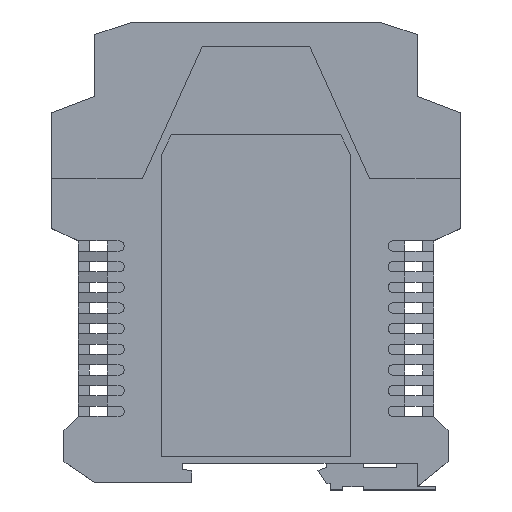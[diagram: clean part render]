
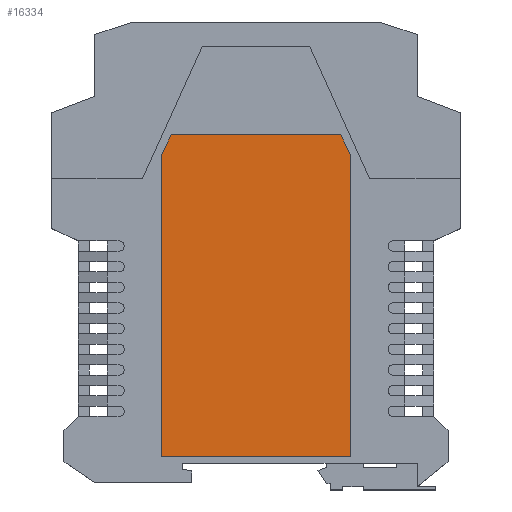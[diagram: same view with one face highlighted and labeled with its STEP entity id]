
A CAD part, top view. The second image highlights one B-rep face of the part: STEP entity #16334.
In plain terms, the highlighted planar face has unit normal (0, 0, 1).
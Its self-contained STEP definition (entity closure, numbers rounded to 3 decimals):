
#110 = LINE ( 'NONE', #16987, #18205 ) ;
#346 = PLANE ( 'NONE',  #9746 ) ;
#735 = DIRECTION ( 'NONE',  ( 0., 1., 0. ) ) ;
#1245 = CARTESIAN_POINT ( 'NONE',  ( 267.081, 339.152, 12.3 ) ) ;
#1602 = EDGE_CURVE ( 'NONE', #4344, #9755, #110, .T. ) ;
#1675 = EDGE_CURVE ( 'NONE', #9755, #7152, #17368, .T. ) ;
#1778 = VERTEX_POINT ( 'NONE', #21467 ) ;
#2019 = VECTOR ( 'NONE', #9514, 1000. ) ;
#2707 = CARTESIAN_POINT ( 'NONE',  ( 310.581, 334.152, 12.3 ) ) ;
#2941 = DIRECTION ( 'NONE',  ( 1., 0., 0. ) ) ;
#3109 = CARTESIAN_POINT ( 'NONE',  ( 264.581, 334.152, 12.3 ) ) ;
#3389 = EDGE_CURVE ( 'NONE', #1778, #9187, #8338, .T. ) ;
#4286 = DIRECTION ( 'NONE',  ( 0., -1., 0. ) ) ;
#4344 = VERTEX_POINT ( 'NONE', #3109 ) ;
#4527 = EDGE_CURVE ( 'NONE', #9187, #7402, #20976, .T. ) ;
#4540 = LINE ( 'NONE', #9779, #10775 ) ;
#5953 = DIRECTION ( 'NONE',  ( 1., 0., 0. ) ) ;
#6241 = DIRECTION ( 'NONE',  ( -0.447, 0.894, 0. ) ) ;
#6434 = ORIENTED_EDGE ( 'NONE', *, *, #17317, .T. ) ;
#6944 = DIRECTION ( 'NONE',  ( -0.447, -0.894, 0. ) ) ;
#7152 = VERTEX_POINT ( 'NONE', #7460 ) ;
#7402 = VERTEX_POINT ( 'NONE', #1245 ) ;
#7460 = CARTESIAN_POINT ( 'NONE',  ( 310.581, 261.152, 12.3 ) ) ;
#7484 = VECTOR ( 'NONE', #6241, 1000. ) ;
#8112 = LINE ( 'NONE', #17739, #14642 ) ;
#8338 = LINE ( 'NONE', #2707, #7484 ) ;
#9187 = VERTEX_POINT ( 'NONE', #17031 ) ;
#9514 = DIRECTION ( 'NONE',  ( -1., 0., 0. ) ) ;
#9715 = ORIENTED_EDGE ( 'NONE', *, *, #1675, .T. ) ;
#9746 = AXIS2_PLACEMENT_3D ( 'NONE', #13037, #20295, #5953 ) ;
#9755 = VERTEX_POINT ( 'NONE', #19071 ) ;
#9779 = CARTESIAN_POINT ( 'NONE',  ( 310.581, 334.152, 12.3 ) ) ;
#9929 = ORIENTED_EDGE ( 'NONE', *, *, #12849, .T. ) ;
#10217 = CARTESIAN_POINT ( 'NONE',  ( 287.581, 261.152, 12.3 ) ) ;
#10485 = ORIENTED_EDGE ( 'NONE', *, *, #4527, .T. ) ;
#10775 = VECTOR ( 'NONE', #735, 1000. ) ;
#12305 = EDGE_LOOP ( 'NONE', ( #10485, #6434, #17959, #9715, #9929, #18974 ) ) ;
#12614 = VECTOR ( 'NONE', #2941, 1000. ) ;
#12849 = EDGE_CURVE ( 'NONE', #7152, #1778, #4540, .T. ) ;
#13037 = CARTESIAN_POINT ( 'NONE',  ( 0., 0., 12.3 ) ) ;
#14642 = VECTOR ( 'NONE', #6944, 1000. ) ;
#16334 = ADVANCED_FACE ( 'NONE', ( #19164 ), #346, .T. ) ;
#16546 = CARTESIAN_POINT ( 'NONE',  ( 287.581, 339.152, 12.3 ) ) ;
#16987 = CARTESIAN_POINT ( 'NONE',  ( 264.581, 334.152, 12.3 ) ) ;
#17031 = CARTESIAN_POINT ( 'NONE',  ( 308.081, 339.152, 12.3 ) ) ;
#17317 = EDGE_CURVE ( 'NONE', #7402, #4344, #8112, .T. ) ;
#17368 = LINE ( 'NONE', #10217, #12614 ) ;
#17739 = CARTESIAN_POINT ( 'NONE',  ( 264.581, 334.152, 12.3 ) ) ;
#17959 = ORIENTED_EDGE ( 'NONE', *, *, #1602, .T. ) ;
#18205 = VECTOR ( 'NONE', #4286, 1000. ) ;
#18974 = ORIENTED_EDGE ( 'NONE', *, *, #3389, .T. ) ;
#19071 = CARTESIAN_POINT ( 'NONE',  ( 264.581, 261.152, 12.3 ) ) ;
#19164 = FACE_OUTER_BOUND ( 'NONE', #12305, .T. ) ;
#20295 = DIRECTION ( 'NONE',  ( 0., 0., 1. ) ) ;
#20976 = LINE ( 'NONE', #16546, #2019 ) ;
#21467 = CARTESIAN_POINT ( 'NONE',  ( 310.581, 334.152, 12.3 ) ) ;
